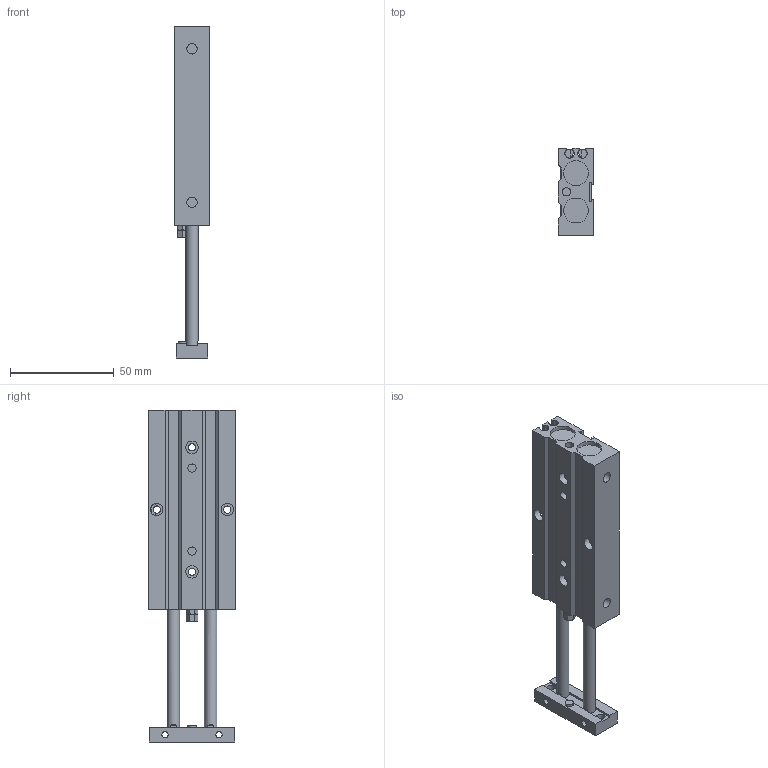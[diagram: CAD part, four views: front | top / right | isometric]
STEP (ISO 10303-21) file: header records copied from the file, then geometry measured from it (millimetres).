
FILE_DESCRIPTION((''),'2;1');
FILE_NAME('I:\3D電子目錄\氣缸\TD\TD10\TD10\TD10x50.stp','2007-08-06T09:34:46',('Administrator'),(''),'Autodesk Inventor 2008','Autodesk Inventor 2008','');
FILE_SCHEMA(('AUTOMOTIVE_DESIGN { 1 0 10303 214 1 1 1 1 }'));
Length unit declared in the file: millimetre
Products named in the file (1): TD10X50
Bounding box: 17 x 42 x 160 mm (x, y, z)
Volume: 66244.7 mm3; surface area: 22051.7 mm2
Topology: 1 solids, 3 shells, 153 faces, 377 edges, 246 vertices
Faces by surface type: plane 99, cylinder 32, bspline 13, cone 7, torus 2
Full cylindrical faces by diameter (mm): 3 x2, 3.5 x4, 4 x4, 4.011 x2, 5 x4, 6 x8, 7 x2, 12 x4
Entity records: 4542 total; most frequent: CARTESIAN_POINT 1135, DIRECTION 662, ORIENTED_EDGE 644, EDGE_CURVE 322, EDGE_LOOP 238, VERTEX_POINT 234, AXIS2_PLACEMENT_3D 229, VECTOR 204
